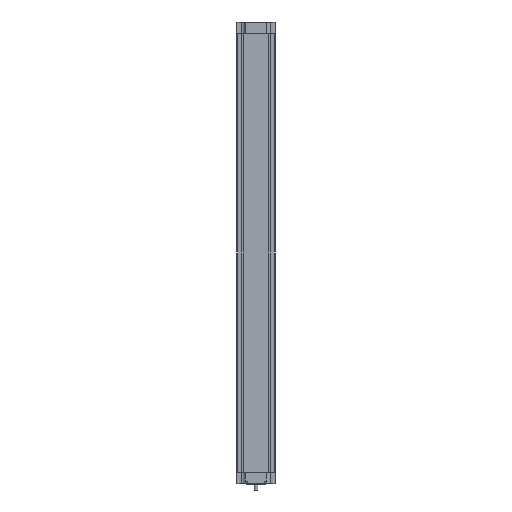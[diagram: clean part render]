
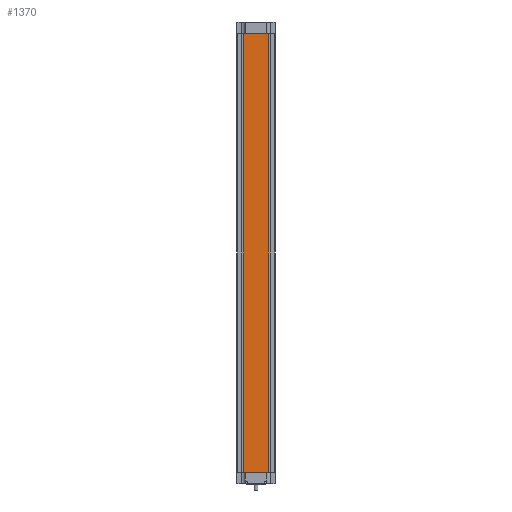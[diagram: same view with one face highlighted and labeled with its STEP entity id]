
A CAD part, front view. The second image highlights one B-rep face of the part: STEP entity #1370.
In plain terms, the highlighted planar face has unit normal (0, -1, 0).
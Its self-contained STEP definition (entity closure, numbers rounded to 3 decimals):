
#714 = VERTEX_POINT ( 'NONE', #4872 ) ;
#725 = VERTEX_POINT ( 'NONE', #4920 ) ;
#728 = EDGE_CURVE ( 'NONE', #714, #725, #4908, .T. ) ;
#1294 = EDGE_CURVE ( 'NONE', #3409, #725, #5915, .T. ) ;
#1295 = ORIENTED_EDGE ( 'NONE', *, *, #728, .T. ) ;
#1299 = ORIENTED_EDGE ( 'NONE', *, *, #1363, .T. ) ;
#1363 = EDGE_CURVE ( 'NONE', #3393, #714, #6003, .T. ) ;
#1366 = ORIENTED_EDGE ( 'NONE', *, *, #3398, .F. ) ;
#1367 = ORIENTED_EDGE ( 'NONE', *, *, #1294, .F. ) ;
#1368 = EDGE_LOOP ( 'NONE', ( #1295, #1367, #1366, #1299 ) ) ;
#1370 = ADVANCED_FACE ( 'NONE', ( #6008 ), #6064, .F. ) ;
#3393 = VERTEX_POINT ( 'NONE', #9074 ) ;
#3398 = EDGE_CURVE ( 'NONE', #3393, #3409, #9054, .T. ) ;
#3409 = VERTEX_POINT ( 'NONE', #9101 ) ;
#4872 = CARTESIAN_POINT ( 'NONE',  ( -65., -48.75, 0. ) ) ;
#4905 = DIRECTION ( 'NONE',  ( 1., 0., 0. ) ) ;
#4906 = VECTOR ( 'NONE', #4905, 1000. ) ;
#4907 = CARTESIAN_POINT ( 'NONE',  ( -65., -48.75, 0. ) ) ;
#4908 = LINE ( 'NONE', #4907, #4906 ) ;
#4920 = CARTESIAN_POINT ( 'NONE',  ( 65., -48.75, 0. ) ) ;
#5910 = DIRECTION ( 'NONE',  ( 0., 0., -1. ) ) ;
#5911 = VECTOR ( 'NONE', #5910, 1000. ) ;
#5912 = CARTESIAN_POINT ( 'NONE',  ( 65., -48.75, 2268. ) ) ;
#5915 = LINE ( 'NONE', #5912, #5911 ) ;
#6002 = CARTESIAN_POINT ( 'NONE',  ( -65., -48.75, 2268. ) ) ;
#6003 = LINE ( 'NONE', #6002, #6063 ) ;
#6008 = FACE_OUTER_BOUND ( 'NONE', #1368, .T. ) ;
#6032 = AXIS2_PLACEMENT_3D ( 'NONE', #6065, #6058, #6057 ) ;
#6057 = DIRECTION ( 'NONE',  ( -1., 0., 0. ) ) ;
#6058 = DIRECTION ( 'NONE',  ( 0., 1., 0. ) ) ;
#6062 = DIRECTION ( 'NONE',  ( 0., 0., -1. ) ) ;
#6063 = VECTOR ( 'NONE', #6062, 1000. ) ;
#6064 = PLANE ( 'NONE',  #6032 ) ;
#6065 = CARTESIAN_POINT ( 'NONE',  ( -65., -48.75, 2268. ) ) ;
#9051 = DIRECTION ( 'NONE',  ( 1., 0., 0. ) ) ;
#9052 = VECTOR ( 'NONE', #9051, 1000. ) ;
#9053 = CARTESIAN_POINT ( 'NONE',  ( -65., -48.75, 2268. ) ) ;
#9054 = LINE ( 'NONE', #9053, #9052 ) ;
#9074 = CARTESIAN_POINT ( 'NONE',  ( -65., -48.75, 2268. ) ) ;
#9101 = CARTESIAN_POINT ( 'NONE',  ( 65., -48.75, 2268. ) ) ;
